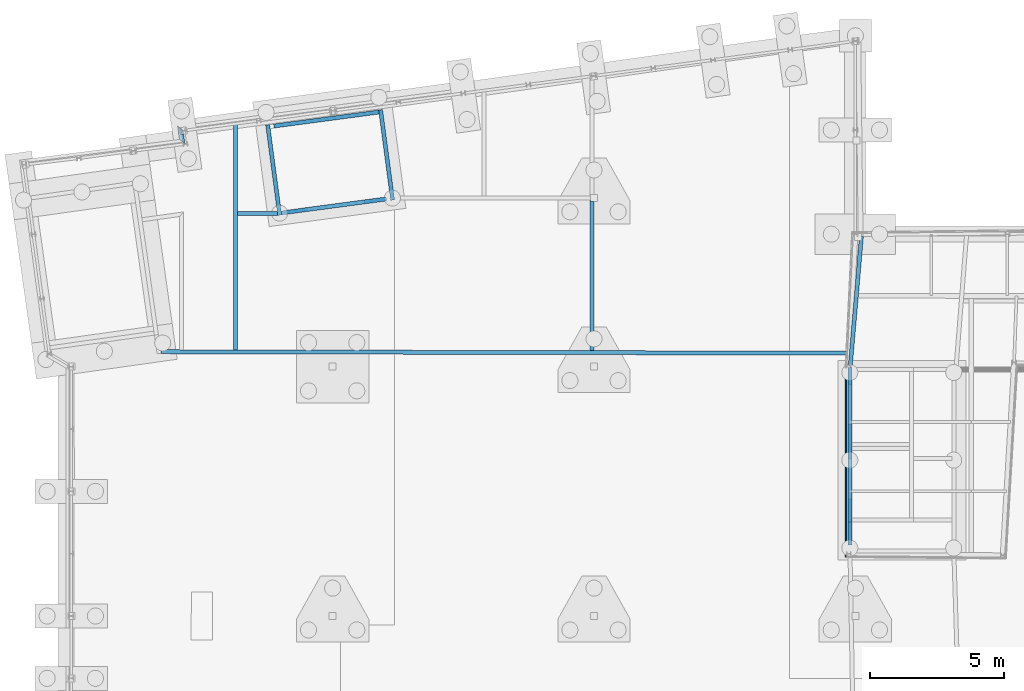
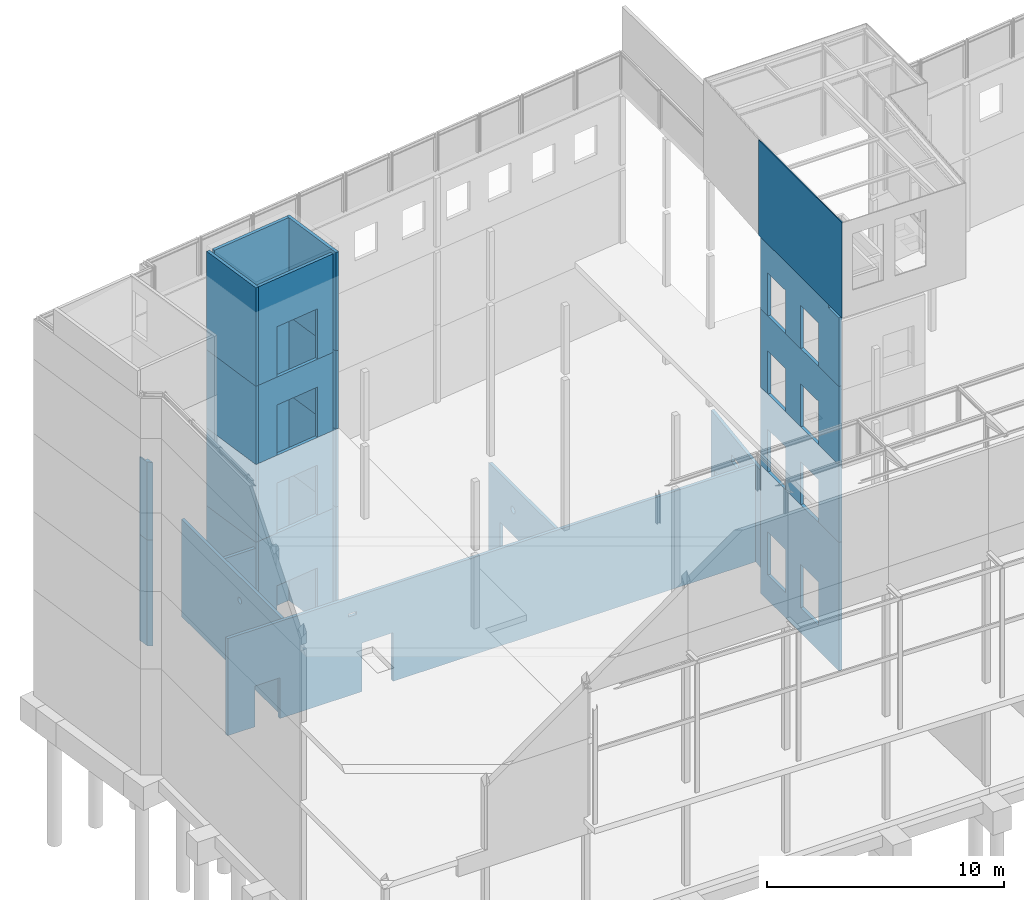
# One storey, part 71 of 82: 28 walls.
"""IFC2X3 building model written with IfcOpenShell, lengths in millimetres."""

from ifc_helpers import new_model, si_unit, frame, frame_2d, origin_with_axes, place, context, subcontext, project, spatial, polyline, rectangle, circle, outline, extrude, boolean, clip, halfspace, material, layer, layer_set, layer_usage, type_object, element, save


model = new_model("IFC2X3")

# Units and contexts
model_context = context("Model", 3, precision=1e-05, world=origin_with_axes())
body_context = subcontext(model_context, "Body", "Model", "MODEL_VIEW")
ifc_project = project(units=[si_unit("LENGTHUNIT", "METRE", prefix="MILLI"), si_unit("AREAUNIT", "SQUARE_METRE"), si_unit("VOLUMEUNIT", "CUBIC_METRE"), si_unit("MASSUNIT", "GRAM", prefix="KILO"), si_unit("TIMEUNIT", "SECOND"), si_unit("PLANEANGLEUNIT", "RADIAN"), si_unit("SOLIDANGLEUNIT", "STERADIAN"), si_unit("THERMODYNAMICTEMPERATUREUNIT", "DEGREE_CELSIUS"), si_unit("LUMINOUSINTENSITYUNIT", "LUMEN")], contexts=[model_context])

# Site, building, storey
site_placement = place(None, origin_with_axes())
site = spatial("IfcSite", under=ifc_project, at=site_placement, Name="Undefined", CompositionType="ELEMENT")
building_placement = place(site_placement, origin_with_axes())
building = spatial("IfcBuilding", under=site, at=building_placement, Name="Undefined", CompositionType="ELEMENT")
storey_placement = place(building_placement, origin_with_axes())
storey = spatial("IfcBuildingStorey", under=building, at=storey_placement, Name="Undefined", CompositionType="ELEMENT", Elevation=0.0)

# Walls
ifc_material_1 = material(Name="CONCRETE/C25/30")
ifc_layer_1 = layer(ifc_material_1, 150.0)
ifc_layer_set_1 = layer_set([ifc_layer_1], Name="Wall: Insitu CONCRETE/C25/30")
ifc_layer_usage_1 = layer_usage(ifc_layer_set_1, "AXIS2", "POSITIVE", -75.0)
wall_type_1 = type_object("IfcWallType", Name="4025*150", PredefinedType="NOTDEFINED")
wall_1_placement = place(storey_placement, frame((29048.7636301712, 18565.0686519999, 9305.0), z_axis=(0.0, 0.0, 1.0), x_axis=(-2.77555756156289e-17, -1.0, 0.0)))
element("IfcWallStandardCase", 1, at=wall_1_placement, inside=storey, type_object=wall_type_1, material=ifc_layer_usage_1, Name="VOILE_15CM", ObjectType="4025*150", context=body_context, shape_type="CSG", body=[
    boolean("DIFFERENCE", boolean("DIFFERENCE", extrude(rectangle(XDim=6620.14607964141, YDim=150.0, at=frame_2d((0.0, 3310.07303981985), x_axis=(0.0, -1.0))), frame((0.0, 0.0, 0.0), z_axis=(0.0, 0.0, 1.0), x_axis=(-2.77555756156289e-17, -1.0, 0.0)), (0.0, 0.0, 1.0), 4025.0), extrude(outline(polyline([(5.17284206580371e-08, 4.49290382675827e-10), (2220.0, -4.22005541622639e-10), (2220.0, 1499.99999999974), (0.0, 1499.99999999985), (5.17284206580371e-08, 4.49290382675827e-10)])), frame((3395.65940739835, 84.9999999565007, 2220.0), z_axis=(-2.77555756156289e-17, -1.0, 0.0), x_axis=(0.0, -6.50000002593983e-08, -0.999999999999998)), (0.0, 0.0, 1.0), 170.0)), extrude(outline(polyline([(5.17284206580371e-08, 4.49290382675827e-10), (2220.0, -4.22005541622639e-10), (2220.0, 1499.99999999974), (0.0, 1499.99999999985), (5.17284206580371e-08, 4.49290382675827e-10)])), frame((627.156925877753, 84.999999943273, 2220.0), z_axis=(-2.77555756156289e-17, -1.0, 0.0), x_axis=(0.0, -6.50000002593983e-08, -0.999999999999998)), (0.0, 0.0, 1.0), 170.0)),
])
ifc_layer_usage_2 = layer_usage(ifc_layer_set_1, "AXIS2", "POSITIVE", -75.0)
wall_2_placement = place(storey_placement, frame((11987.8709465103, 24813.5863782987, 9305.00006216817), z_axis=(0.0, 0.0, 1.0), x_axis=(-0.132256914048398, 0.991215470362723, 0.0)))
element("IfcWallStandardCase", 2, at=wall_2_placement, inside=storey, type_object=wall_type_1, material=ifc_layer_usage_2, Name="VOILE_15CM", ObjectType="4025*150", context=body_context, shape_type="SweptSolid", body=[
    extrude(rectangle(XDim=3399.99999999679, YDim=150.0, at=frame_2d((0.0, 1700.00000000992), x_axis=(0.0, -1.0))), frame((0.0, 0.0, 0.0), z_axis=(0.0, 0.0, 1.0), x_axis=(-2.77555756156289e-17, -1.0, 0.0)), (0.0, 0.0, 1.0), 4025.0),
])
ifc_layer_usage_3 = layer_usage(ifc_layer_set_1, "AXIS2", "POSITIVE", -75.0)
wall_3_placement = place(storey_placement, frame((11622.4599103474, 28119.2973117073, 9305.00006216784), z_axis=(0.0, 0.0, 1.0), x_axis=(-0.99121555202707, -0.132256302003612, 0.0)))
element("IfcWallStandardCase", 3, at=wall_3_placement, inside=storey, type_object=wall_type_1, material=ifc_layer_usage_3, Name="VOILE_15CM", ObjectType="4025*150", context=body_context, shape_type="SweptSolid", body=[
    extrude(rectangle(XDim=4099.9999983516, YDim=150.0, at=frame_2d((0.0, 2049.99999917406), x_axis=(0.0, -1.0))), frame((0.0, 0.0, 0.0), z_axis=(0.0, 0.0, 1.0), x_axis=(-2.77555756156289e-17, -1.0, 0.0)), (0.0, 0.0, 1.0), 4025.0),
])
ifc_layer_usage_4 = layer_usage(ifc_layer_set_1, "AXIS2", "POSITIVE", -75.0)
wall_4_placement = place(storey_placement, frame((7325.53342494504, 27621.6299739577, 9305.00006216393), z_axis=(0.0, 0.0, 1.0), x_axis=(0.132256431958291, -0.991215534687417, 0.0)))
element("IfcWallStandardCase", 4, at=wall_4_placement, inside=storey, type_object=wall_type_1, material=ifc_layer_usage_4, Name="VOILE_15CM", ObjectType="4025*150", context=body_context, shape_type="SweptSolid", body=[
    extrude(rectangle(XDim=3399.99999999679, YDim=150.0, at=frame_2d((0.0, 1700.00000000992), x_axis=(0.0, -1.0))), frame((0.0, 0.0, 0.0), z_axis=(0.0, 0.0, 1.0), x_axis=(-2.77555756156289e-17, -1.0, 0.0)), (0.0, 0.0, 1.0), 4025.0),
])
ifc_layer_usage_5 = layer_usage(ifc_layer_set_1, "AXIS2", "POSITIVE", -75.0)
wall_5_placement = place(storey_placement, frame((7690.94446103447, 24315.9190406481, 9305.00006216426), z_axis=(0.0, 0.0, 1.0), x_axis=(0.991215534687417, 0.132256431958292, 0.0)))
element("IfcWallStandardCase", 5, at=wall_5_placement, inside=storey, type_object=wall_type_1, material=ifc_layer_usage_5, Name="VOILE_15CM", ObjectType="4025*150", context=body_context, shape_type="CSG", body=[
    boolean("DIFFERENCE", extrude(rectangle(XDim=4099.9999983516, YDim=150.0, at=frame_2d((0.0, 2049.99999917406), x_axis=(0.0, -1.0))), frame((0.0, 0.0, 0.0), z_axis=(0.0, 0.0, 1.0), x_axis=(-2.77555756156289e-17, -1.0, 0.0)), (0.0, 0.0, 1.0), 4025.0), extrude(outline(polyline([(5.17284206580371e-08, 4.49290382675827e-10), (2592.0, -4.98403096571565e-10), (2592.0, 2159.99999999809), (3.63797880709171e-12, 2159.99999999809), (5.17284206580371e-08, 4.49290382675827e-10)])), frame((1119.93993696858, 85.0000000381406, 2592.00000000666), z_axis=(-2.77555756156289e-17, -1.0, 0.0), x_axis=(0.0, -6.50000002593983e-08, -0.999999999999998)), (0.0, 0.0, 1.0), 170.0)),
])
ifc_layer_usage_6 = layer_usage(ifc_layer_set_1, "AXIS2", "POSITIVE", -75.0)
wall_type_2 = type_object("IfcWallType", Name="4005*150", PredefinedType="NOTDEFINED")
wall_6_placement = place(storey_placement, frame((29048.7636301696, 18565.0686519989, 5300.0), z_axis=(0.0, 0.0, 1.0), x_axis=(-2.77555756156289e-17, -1.0, 0.0)))
element("IfcWallStandardCase", 6, at=wall_6_placement, inside=storey, type_object=wall_type_2, material=ifc_layer_usage_6, Name="VOILE_15CM", ObjectType="4005*150", context=body_context, shape_type="CSG", body=[
    boolean("DIFFERENCE", boolean("DIFFERENCE", extrude(rectangle(XDim=6620.14607964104, YDim=150.0, at=frame_2d((0.0, 3310.07303981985), x_axis=(0.0, -1.0))), frame((0.0, 0.0, 0.0), z_axis=(0.0, 0.0, 1.0), x_axis=(-2.77555756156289e-17, -1.0, 0.0)), (0.0, 0.0, 1.0), 4005.0), extrude(outline(polyline([(5.17284206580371e-08, 4.49290382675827e-10), (2200.0, 1.09139364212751e-11), (2200.0, 1499.99999999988), (0.0, 1499.99999999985), (5.17284206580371e-08, 4.49290382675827e-10)])), frame((3395.65940723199, 84.9999999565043, 2200.0), z_axis=(-2.77555756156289e-17, -1.0, 0.0), x_axis=(0.0, -6.50000002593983e-08, -0.999999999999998)), (0.0, 0.0, 1.0), 170.0)), extrude(outline(polyline([(5.17284206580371e-08, 4.49290382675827e-10), (2200.0, 1.09139364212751e-11), (2200.0, 1499.99999999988), (0.0, 1499.99999999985), (5.17284206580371e-08, 4.49290382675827e-10)])), frame((627.156925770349, 84.9999999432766, 2200.0), z_axis=(-2.77555756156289e-17, -1.0, 0.0), x_axis=(0.0, -6.50000002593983e-08, -0.999999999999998)), (0.0, 0.0, 1.0), 170.0)),
])
ifc_layer_usage_7 = layer_usage(ifc_layer_set_1, "AXIS2", "POSITIVE", -75.0)
wall_7_placement = place(storey_placement, frame((11987.8709465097, 24813.5863782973, 5300.00006216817), z_axis=(0.0, 0.0, 1.0), x_axis=(-0.132256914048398, 0.991215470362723, 0.0)))
element("IfcWallStandardCase", 7, at=wall_7_placement, inside=storey, type_object=wall_type_2, material=ifc_layer_usage_7, Name="VOILE_15CM", ObjectType="4005*150", context=body_context, shape_type="SweptSolid", body=[
    extrude(rectangle(XDim=3399.9999999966, YDim=150.0, at=frame_2d((0.0, 1700.00000000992), x_axis=(0.0, -1.0))), frame((0.0, 0.0, 0.0), z_axis=(0.0, 0.0, 1.0), x_axis=(-2.77555756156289e-17, -1.0, 0.0)), (0.0, 0.0, 1.0), 4005.0),
])
ifc_layer_usage_8 = layer_usage(ifc_layer_set_1, "AXIS2", "POSITIVE", -75.0)
wall_8_placement = place(storey_placement, frame((11622.4599103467, 28119.2973117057, 5300.00006216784), z_axis=(0.0, 0.0, 1.0), x_axis=(-0.99121555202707, -0.132256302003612, 0.0)))
element("IfcWallStandardCase", 8, at=wall_8_placement, inside=storey, type_object=wall_type_2, material=ifc_layer_usage_8, Name="VOILE_15CM", ObjectType="4005*150", context=body_context, shape_type="SweptSolid", body=[
    extrude(rectangle(XDim=4099.99999835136, YDim=150.0, at=frame_2d((0.0, 2049.99999917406), x_axis=(0.0, -1.0))), frame((0.0, 0.0, 0.0), z_axis=(0.0, 0.0, 1.0), x_axis=(-2.77555756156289e-17, -1.0, 0.0)), (0.0, 0.0, 1.0), 4005.0),
])
ifc_layer_usage_9 = layer_usage(ifc_layer_set_1, "AXIS2", "POSITIVE", -75.0)
wall_9_placement = place(storey_placement, frame((7325.53342494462, 27621.6299739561, 5300.00006216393), z_axis=(0.0, 0.0, 1.0), x_axis=(0.132256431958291, -0.991215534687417, 0.0)))
element("IfcWallStandardCase", 9, at=wall_9_placement, inside=storey, type_object=wall_type_2, material=ifc_layer_usage_9, Name="VOILE_15CM", ObjectType="4005*150", context=body_context, shape_type="SweptSolid", body=[
    extrude(rectangle(XDim=3399.9999999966, YDim=150.0, at=frame_2d((0.0, 1700.00000000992), x_axis=(0.0, -1.0))), frame((0.0, 0.0, 0.0), z_axis=(0.0, 0.0, 1.0), x_axis=(-2.77555756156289e-17, -1.0, 0.0)), (0.0, 0.0, 1.0), 4005.0),
])
ifc_layer_usage_10 = layer_usage(ifc_layer_set_1, "AXIS2", "POSITIVE", -75.0)
wall_10_placement = place(storey_placement, frame((7690.94446103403, 24315.9190406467, 5300.00006216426), z_axis=(0.0, 0.0, 1.0), x_axis=(0.991215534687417, 0.132256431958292, 0.0)))
element("IfcWallStandardCase", 10, at=wall_10_placement, inside=storey, type_object=wall_type_2, material=ifc_layer_usage_10, Name="VOILE_15CM", ObjectType="4005*150", context=body_context, shape_type="CSG", body=[
    boolean("DIFFERENCE", extrude(rectangle(XDim=4099.99999835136, YDim=150.0, at=frame_2d((0.0, 2049.99999917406), x_axis=(0.0, -1.0))), frame((0.0, 0.0, 0.0), z_axis=(0.0, 0.0, 1.0), x_axis=(-2.77555756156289e-17, -1.0, 0.0)), (0.0, 0.0, 1.0), 4005.0), extrude(outline(polyline([(5.17284206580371e-08, 4.49290382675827e-10), (2580.0, -3.23780113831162e-10), (2580.0, 2159.99999999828), (3.63797880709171e-12, 2159.99999999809), (5.17284206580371e-08, 4.49290382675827e-10)])), frame((1119.93993696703, 85.0000000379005, 2580.00000000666), z_axis=(-2.77555756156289e-17, -1.0, 0.0), x_axis=(0.0, -6.50000002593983e-08, -0.999999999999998)), (0.0, 0.0, 1.0), 170.0)),
])
ifc_material_2 = material(Name="STEEL/Steel_Undefined")
wall_type_3 = type_object("IfcWallType", Name="4900*50", PredefinedType="NOTDEFINED")
wall_11_placement = place(storey_placement, frame((28898.7637729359, 18564.9191475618, 17160.0003814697), z_axis=(0.0, 0.0, 1.0), x_axis=(-2.16299999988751e-06, -0.999999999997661, 0.0)))
element("IfcWall", 11, at=wall_11_placement, inside=storey, type_object=wall_type_3, material=ifc_material_2, Name="HABILLAGE", ObjectType="4900*50", context=body_context, shape_type="Clipping", body=[
    clip(clip(extrude(rectangle(XDim=7158.24198893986, YDim=50.0, at=frame_2d((0.0, 3523.91337771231), x_axis=(0.0, -1.0))), frame((0.0, 0.0, 0.0), z_axis=(0.0, 0.0, 1.0), x_axis=(-2.77555756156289e-17, -1.0, 0.0)), (0.0, 0.0, 1.0), 4900.0), halfspace(frame((7071.98203029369, -25.0000000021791, 2450.0), z_axis=(0.710467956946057, 0.703729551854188, 0.0), x_axis=(0.0, 0.0, 1.0)), False)), halfspace(frame((5.10229074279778e-05, -25.0000000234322, 2469.99961851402), z_axis=(0.99970482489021, -0.0242953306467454, 0.0), x_axis=(0.0, 0.0, 1.0)), True)),
])
ifc_layer_usage_11 = layer_usage(ifc_layer_set_1, "AXIS2", "POSITIVE", -75.0)
wall_type_4 = type_object("IfcWallType", Name="5070*150", PredefinedType="NOTDEFINED")
wall_12_placement = place(storey_placement, frame((11622.4599103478, 28119.2973117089, 13330.0000621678), z_axis=(0.0, 0.0, 1.0), x_axis=(-0.99121555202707, -0.132256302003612, 0.0)))
element("IfcWallStandardCase", 12, at=wall_12_placement, inside=storey, type_object=wall_type_4, material=ifc_layer_usage_11, Name="VOILE_15CM", ObjectType="5070*150", context=body_context, shape_type="SweptSolid", body=[
    extrude(rectangle(XDim=4099.99999834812, YDim=150.0, at=frame_2d((0.0, 2049.99999917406), x_axis=(0.0, -1.0))), frame((0.0, 0.0, 0.0), z_axis=(0.0, 0.0, 1.0), x_axis=(-2.77555756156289e-17, -1.0, 0.0)), (0.0, 0.0, 1.0), 5070.0),
])
ifc_layer_usage_12 = layer_usage(ifc_layer_set_1, "AXIS2", "POSITIVE", -75.0)
wall_13_placement = place(storey_placement, frame((11987.8709465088, 24813.5863783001, 13330.0000621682), z_axis=(0.0, 0.0, 1.0), x_axis=(-0.132256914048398, 0.991215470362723, 0.0)))
element("IfcWallStandardCase", 13, at=wall_13_placement, inside=storey, type_object=wall_type_4, material=ifc_layer_usage_12, Name="VOILE_15CM", ObjectType="5070*150", context=body_context, shape_type="SweptSolid", body=[
    extrude(rectangle(XDim=3400.00000001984, YDim=150.0, at=frame_2d((0.0, 1700.00000000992), x_axis=(0.0, -1.0))), frame((0.0, 0.0, 0.0), z_axis=(0.0, 0.0, 1.0), x_axis=(-2.77555756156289e-17, -1.0, 0.0)), (0.0, 0.0, 1.0), 5070.0),
])
ifc_layer_usage_13 = layer_usage(ifc_layer_set_1, "AXIS2", "POSITIVE", -75.0)
wall_14_placement = place(storey_placement, frame((7325.53342494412, 27621.6299739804, 13330.0000621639), z_axis=(0.0, 0.0, 1.0), x_axis=(0.132256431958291, -0.991215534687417, 0.0)))
element("IfcWallStandardCase", 14, at=wall_14_placement, inside=storey, type_object=wall_type_4, material=ifc_layer_usage_13, Name="VOILE_15CM", ObjectType="5070*150", context=body_context, shape_type="SweptSolid", body=[
    extrude(rectangle(XDim=3400.00000001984, YDim=150.0, at=frame_2d((0.0, 1700.00000000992), x_axis=(0.0, -1.0))), frame((0.0, 0.0, 0.0), z_axis=(0.0, 0.0, 1.0), x_axis=(-2.77555756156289e-17, -1.0, 0.0)), (0.0, 0.0, 1.0), 5070.0),
])
ifc_layer_usage_14 = layer_usage(ifc_layer_set_1, "AXIS2", "POSITIVE", -75.0)
wall_15_placement = place(storey_placement, frame((7690.94446103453, 24315.9190406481, 13330.0000621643), z_axis=(0.0, 0.0, 1.0), x_axis=(0.991215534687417, 0.132256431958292, 0.0)))
element("IfcWallStandardCase", 15, at=wall_15_placement, inside=storey, type_object=wall_type_4, material=ifc_layer_usage_14, Name="VOILE_15CM", ObjectType="5070*150", context=body_context, shape_type="CSG", body=[
    boolean("DIFFERENCE", extrude(rectangle(XDim=4099.99999834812, YDim=150.0, at=frame_2d((0.0, 2049.99999917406), x_axis=(0.0, -1.0))), frame((0.0, 0.0, 0.0), z_axis=(0.0, 0.0, 1.0), x_axis=(-2.77555756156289e-17, -1.0, 0.0)), (0.0, 0.0, 1.0), 5070.0), extrude(outline(polyline([(5.17284206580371e-08, 4.49290382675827e-10), (2592.0, -4.98403096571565e-10), (2592.0, 2159.99999999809), (3.63797880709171e-12, 2159.99999999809), (5.17284206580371e-08, 4.49290382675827e-10)])), frame((1119.93993696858, 85.0000000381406, 2592.00000000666), z_axis=(-2.77555756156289e-17, -1.0, 0.0), x_axis=(0.0, -6.50000002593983e-08, -0.999999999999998)), (0.0, 0.0, 1.0), 170.0)),
])
ifc_layer_usage_15 = layer_usage(ifc_layer_set_1, "AXIS2", "POSITIVE", -75.0)
wall_type_5 = type_object("IfcWallType", Name="4700*150", PredefinedType="NOTDEFINED")
wall_16_placement = place(storey_placement, frame((29048.7636301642, 18565.0686519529, 13330.0), z_axis=(0.0, 0.0, 1.0), x_axis=(-2.77555756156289e-17, -1.0, 0.0)))
element("IfcWallStandardCase", 16, at=wall_16_placement, inside=storey, type_object=wall_type_5, material=ifc_layer_usage_15, Name="VOILE_15CM", ObjectType="4700*150", context=body_context, shape_type="CSG", body=[
    boolean("DIFFERENCE", boolean("DIFFERENCE", boolean("DIFFERENCE", extrude(rectangle(XDim=6620.14607963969, YDim=150.0, at=frame_2d((0.0, 3310.07303981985), x_axis=(0.0, -1.0))), frame((0.0, 0.0, 0.0), z_axis=(0.0, 0.0, 1.0), x_axis=(-2.77555756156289e-17, -1.0, 0.0)), (0.0, 0.0, 1.0), 4700.0), extrude(outline(polyline([(5.17284206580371e-08, 4.49290382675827e-10), (1170.0, -1.20053300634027e-10), (1170.0, 1020.14605712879), (-7.27595761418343e-12, 1020.14605712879), (5.17284206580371e-08, 4.49290382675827e-10)])), frame((5749.99996016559, 77.5000000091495, 4699.99999999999), z_axis=(-2.77555756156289e-17, -1.0, 0.0), x_axis=(0.0, -6.50000002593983e-08, -0.999999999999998)), (0.0, 0.0, 1.0), 155.0)), extrude(outline(polyline([(5.17284206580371e-08, 4.49290382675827e-10), (2220.0, -4.22005541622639e-10), (2220.0, 1499.99999999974), (0.0, 1499.99999999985), (5.17284206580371e-08, 4.49290382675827e-10)])), frame((3395.65940739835, 84.9999999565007, 2220.0), z_axis=(-2.77555756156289e-17, -1.0, 0.0), x_axis=(0.0, -6.50000002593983e-08, -0.999999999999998)), (0.0, 0.0, 1.0), 170.0)), extrude(outline(polyline([(5.17284206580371e-08, 4.49290382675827e-10), (2220.0, -4.22005541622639e-10), (2220.0, 1499.99999999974), (0.0, 1499.99999999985), (5.17284206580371e-08, 4.49290382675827e-10)])), frame((627.156925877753, 84.999999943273, 2220.0), z_axis=(-2.77555756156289e-17, -1.0, 0.0), x_axis=(0.0, -6.50000002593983e-08, -0.999999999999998)), (0.0, 0.0, 1.0), 170.0)),
])
wall_type_6 = type_object("IfcWallType", Name="4005*180", PredefinedType="NOTDEFINED")
wall_17_placement = place(storey_placement, frame((4147.35883098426, 26910.7352589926, 5000.0), z_axis=(0.0, 0.0, 1.0), x_axis=(-0.132256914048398, 0.991215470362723, 0.0)))
element("IfcWall", 17, at=wall_17_placement, inside=storey, type_object=wall_type_6, material=ifc_material_1, Name="PANNEAU_FACADE", ObjectType="4005*180", context=body_context, shape_type="CSG", body=[
    boolean("DIFFERENCE", boolean("DIFFERENCE", boolean("DIFFERENCE", extrude(rectangle(XDim=1293.65543501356, YDim=180.0, at=frame_2d((0.0, 340.200514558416), x_axis=(0.0, -1.0))), frame((0.0, 0.0, 0.0), z_axis=(0.0, 0.0, 1.0), x_axis=(-2.77555756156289e-17, -1.0, 0.0)), (0.0, 0.0, 1.0), 4005.0), extrude(rectangle(XDim=265.0, YDim=265.0, at=frame_2d((5.17284206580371e-08, 4.49290382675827e-10), x_axis=(1.0, 0.0))), frame((485.073421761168, -104.999523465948, 4004.9999999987), z_axis=(0.0, -6.50000002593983e-08, -0.999999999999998), x_axis=(0.999999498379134, -0.00100161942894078, 0.0)), (0.0, 0.0, 1.0), 3705.0)), halfspace(frame((680.134124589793, 89.9999993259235, 2002.5), z_axis=(-0.706752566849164, 0.70746081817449, 0.0), x_axis=(0.0, 0.0, 1.0)), True)), halfspace(frame((180.714311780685, 89.9999998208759, 2002.5), z_axis=(-0.705704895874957, 0.708505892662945, 0.0), x_axis=(0.0, 0.0, 1.0)), False)),
])
ifc_material_3 = material(Name="CONCRETE/BRIQUE")
wall_type_7 = type_object("IfcWallType", Name="5000*150", PredefinedType="NOTDEFINED")
wall_18_placement = place(storey_placement, frame((29032.716726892, 19104.0721172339, 0.0), z_axis=(0.0, 0.0, 1.0), x_axis=(-0.999997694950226, 0.00214711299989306, 0.0)))
element("IfcWall", 18, at=wall_18_placement, inside=storey, type_object=wall_type_7, material=ifc_material_3, Name="MACONNERIE_15CM", ObjectType="5000*150", context=body_context, shape_type="CSG", body=[
    boolean("DIFFERENCE", boolean("DIFFERENCE", boolean("DIFFERENCE", boolean("DIFFERENCE", boolean("DIFFERENCE", extrude(rectangle(XDim=25761.8732360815, YDim=150.0, at=frame_2d((0.0, 12848.8521234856), x_axis=(0.0, -1.0))), frame((0.0, 0.0, 0.0), z_axis=(0.0, 0.0, 1.0), x_axis=(-2.77555756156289e-17, -1.0, 0.0)), (0.0, 0.0, 1.0), 5000.0), extrude(outline(polyline([(5.17284206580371e-08, 4.49290382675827e-10), (2500.0, -4.18367562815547e-10), (2500.0, 1499.99999999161), (0.0, 1499.99999999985), (5.17284206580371e-08, 4.49290382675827e-10)])), frame((19150.1732547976, -85.0000000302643, 2500.0), z_axis=(0.0, 1.0, 0.0), x_axis=(0.0, -6.50000002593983e-08, -0.999999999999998)), (0.0, 0.0, 1.0), 170.0)), extrude(outline(polyline([(5.17284206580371e-08, 4.49290382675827e-10), (2100.0, 5.82076609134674e-11), (2100.0, 1200.00000000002), (0.0, 1199.99999998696), (5.17284206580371e-08, 4.49290382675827e-10)])), frame((24347.5881879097, -85.0000000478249, 2100.0), z_axis=(0.0, 1.0, 0.0), x_axis=(0.0, -6.50000002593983e-08, -0.999999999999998)), (0.0, 0.0, 1.0), 170.0)), extrude(rectangle(XDim=400.0, YDim=150.0, at=frame_2d((5.17284206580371e-08, 4.49290382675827e-10), x_axis=(1.0, 0.0))), frame((19621.9506438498, -85.0000000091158, 4139.99968719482), z_axis=(0.0, 1.0, 0.0), x_axis=(-1.0, 0.0, 0.0)), (0.0, 0.0, 1.0), 170.0)), halfspace(frame((25691.4316565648, -2.36141204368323e-08, 1500.0), z_axis=(-0.989715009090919, -0.143053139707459, 0.0), x_axis=(-0.143053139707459, 0.989715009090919, 0.0)), True)), halfspace(frame((6.27259041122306, 1.72694853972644e-08, 1500.0), z_axis=(0.996520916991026, -0.0833430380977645, 0.0), x_axis=(-0.0833430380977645, -0.996520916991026, 0.0)), True)),
])
wall_19_placement = place(storey_placement, frame((6122.05352902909, 19228.1033123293, 0.0), z_axis=(0.0, 0.0, 1.0), x_axis=(0.0, 1.0, 0.0)))
element("IfcWall", 19, at=wall_19_placement, inside=storey, type_object=wall_type_7, material=ifc_material_3, Name="MACONNERIE_15CM", ObjectType="5000*150", context=body_context, shape_type="CSG", body=[
    boolean("DIFFERENCE", boolean("DIFFERENCE", extrude(rectangle(XDim=8470.55047227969, YDim=150.0, at=frame_2d((0.0, 4235.43611008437), x_axis=(0.0, -1.0))), frame((0.0, 0.0, 0.0), z_axis=(0.0, 0.0, 1.0), x_axis=(-2.77555756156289e-17, -1.0, 0.0)), (0.0, 0.0, 1.0), 5000.0), extrude(circle(Radius=150.0, at=frame_2d((5.17284206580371e-08, 4.49290382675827e-10), x_axis=(1.0, 0.0))), frame((3516.8263523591, -85.0000000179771, 3800.00048828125), z_axis=(0.0, 1.0, 0.0), x_axis=(-1.0, 0.0, 0.0)), (0.0, 0.0, 1.0), 170.0)), halfspace(frame((8448.5094161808, 4.43596945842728e-08, 1500.0), z_axis=(-0.991347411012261, -0.131264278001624, 0.0), x_axis=(-0.131264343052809, 0.991347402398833, 0.0)), True)),
])
wall_20_placement = place(storey_placement, frame((6197.05360636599, 24316.5778742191, 0.0), z_axis=(0.0, 0.0, 1.0), x_axis=(1.0, 0.0, 0.0)))
element("IfcWall", 20, at=wall_20_placement, inside=storey, type_object=wall_type_7, material=ifc_material_3, Name="MACONNERIE_15CM", ObjectType="5000*150", context=body_context, shape_type="Clipping", body=[
    clip(extrude(rectangle(XDim=1515.8187120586, YDim=150.0, at=frame_2d((0.0, 757.909356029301), x_axis=(0.0, -1.0))), frame((0.0, 0.0, 0.0), z_axis=(0.0, 0.0, 1.0), x_axis=(-2.77555756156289e-17, -1.0, 0.0)), (0.0, 0.0, 1.0), 5000.0), halfspace(frame((1493.80294921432, 1.67565303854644e-08, 1500.0), z_axis=(-0.99121555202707, -0.132256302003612, 0.0), x_axis=(-0.132256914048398, 0.991215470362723, 0.0)), True)),
])
ifc_layer_2 = layer(ifc_material_3, 150.0)
ifc_layer_set_2 = layer_set([ifc_layer_2], Name="Wall: Insitu CONCRETE/BRIQUE")
ifc_layer_usage_16 = layer_usage(ifc_layer_set_2, "AXIS2", "POSITIVE", -75.0)
wall_21_placement = place(storey_placement, frame((19424.9999999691, 19199.5400799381, 0.0), z_axis=(0.0, 0.0, 1.0), x_axis=(0.0, 1.0, 0.0)))
solid = boolean("DIFFERENCE", boolean("DIFFERENCE", boolean("DIFFERENCE", boolean("DIFFERENCE", boolean("DIFFERENCE", extrude(rectangle(XDim=7317.46180809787, YDim=150.0, at=frame_2d((0.0, 3638.7710711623), x_axis=(0.0, -1.0))), frame((5700.37938541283, 74.9598300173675, 0.0), z_axis=(0.0, 0.0, 1.0), x_axis=(0.999999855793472, 0.000537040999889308, 0.0)), (0.0, 0.0, 1.0), 5000.0), extrude(outline(polyline([(5.17284206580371e-08, 4.49290382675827e-10), (14150.0, 3.21233528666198e-09), (14150.0, 1500.00000000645), (0.0, 1499.99999999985), (5.17284206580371e-08, 4.49290382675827e-10)])), frame((5464.520508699, 1674.17237425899, 2500.00000000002), z_axis=(0.999999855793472, 0.000537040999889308, 0.0), x_axis=(0.0, 0.0, 1.0)), (0.0, 0.0, 1.0), 170.0)), extrude(outline(polyline([(5.17284206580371e-08, 4.49290382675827e-10), (14150.0, 3.21233528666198e-09), (14150.0, 1500.00000000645), (0.0, 1499.99999999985), (5.17284206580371e-08, 4.49290382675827e-10)])), frame((5462.25607071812, 5890.68035298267, 2500.00000000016), z_axis=(0.999999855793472, 0.000537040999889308, 0.0), x_axis=(0.0, 0.0, 1.0)), (0.0, 0.0, 1.0), 170.0)), extrude(circle(Radius=100.0, at=frame_2d((5.17284206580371e-08, 4.49290382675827e-10), x_axis=(1.0, 0.0))), frame((5784.81006647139, 1135.0858150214, 3799.99953460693), z_axis=(-0.999999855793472, -0.000537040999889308, 0.0), x_axis=(0.000537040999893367, -0.999999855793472, 0.0)), (0.0, 0.0, 1.0), 170.0)), extrude(circle(Radius=100.0, at=frame_2d((5.17284206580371e-08, 4.49290382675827e-10), x_axis=(1.0, 0.0))), frame((5782.66190278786, 5135.08466139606, 3799.99953460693), z_axis=(-0.999999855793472, -0.000537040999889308, 0.0), x_axis=(0.000537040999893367, -0.999999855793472, 0.0)), (0.0, 0.0, 1.0), 170.0)), halfspace(frame((5696.46032766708, 7372.46075288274, 1500.0), z_axis=(0.132256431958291, -0.991215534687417, 0.0), x_axis=(-0.99121555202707, -0.132256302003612, 0.0)), True))
element("IfcWallStandardCase", 21, at=wall_21_placement, inside=storey, type_object=wall_type_7, material=ifc_layer_usage_16, Name="MACONNERIE_15CM", ObjectType="5000*150", context=body_context, shape_type="CSG", body=[
    boolean("DIFFERENCE", boolean("DIFFERENCE", boolean("DIFFERENCE", boolean("DIFFERENCE", extrude(rectangle(XDim=5700.29888880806, YDim=150.0, at=frame_2d((0.0, 2850.31055559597), x_axis=(0.0, -1.0))), frame((0.0, 0.0, 0.0), z_axis=(0.0, 0.0, 1.0), x_axis=(-2.77555756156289e-17, -1.0, 0.0)), (0.0, 0.0, 1.0), 5000.0), extrude(circle(Radius=175.0, at=frame_2d((5.17284206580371e-08, 4.49290382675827e-10), x_axis=(1.0, 0.0))), frame((3545.38958466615, -85.0, 3800.00048828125), z_axis=(0.0, 1.0, 0.0), x_axis=(-1.0, 0.0, 0.0)), (0.0, 0.0, 1.0), 170.0)), solid), extrude(rectangle(XDim=260.0, YDim=260.0, at=frame_2d((5.17284206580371e-08, 4.49290382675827e-10), x_axis=(1.0, 0.0))), frame((5700.45903505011, -74.9999999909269, 16200.0), z_axis=(0.0, -6.50000002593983e-08, -0.999999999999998), x_axis=(0.0, 1.0, 0.0)), (0.0, 0.0, 1.0), 16650.0)), extrude(outline(polyline([(5.17284206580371e-08, 4.49290382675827e-10), (2500.0, -4.18367562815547e-10), (2500.0, 1499.99999999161), (0.0, 1499.99999999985), (5.17284206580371e-08, 4.49290382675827e-10)])), frame((4641.64916544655, -84.9999999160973, 2500.0), z_axis=(0.0, 1.0, 0.0), x_axis=(0.0, -6.50000002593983e-08, -0.999999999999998)), (0.0, 0.0, 1.0), 170.0)),
])
wall_22_placement = place(storey_placement, frame((29474.750393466, 23451.9385711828, 0.0), z_axis=(0.0, 0.0, 1.0), x_axis=(-0.0854824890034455, -0.996339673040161, 0.0)))
element("IfcWall", 22, at=wall_22_placement, inside=storey, type_object=wall_type_7, material=ifc_material_3, Name="MACONNERIE_15CM", ObjectType="5000*150", context=body_context, shape_type="CSG", body=[
    boolean("DIFFERENCE", boolean("DIFFERENCE", boolean("DIFFERENCE", boolean("DIFFERENCE", extrude(rectangle(XDim=4966.41847559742, YDim=150.0, at=frame_2d((0.0, 2451.83222706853), x_axis=(0.0, -1.0))), frame((0.0, 0.0, 0.0), z_axis=(0.0, 0.0, 1.0), x_axis=(-2.77555756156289e-17, -1.0, 0.0)), (0.0, 0.0, 1.0), 5000.0), extrude(rectangle(XDim=700.0, YDim=360.0, at=frame_2d((5.17284206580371e-08, 4.49290382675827e-10), x_axis=(1.0, 0.0))), frame((2401.61636250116, -85.0000000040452, 3800.0002975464), z_axis=(0.0, 1.0, 0.0), x_axis=(-1.0, 0.0, 0.0)), (0.0, 0.0, 1.0), 170.0)), extrude(outline(polyline([(5.17284206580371e-08, 4.49290382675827e-10), (2100.0, 5.82076609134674e-11), (2100.0, 1000.00000000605), (0.0, 1000.00000000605), (5.17284206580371e-08, 4.49290382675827e-10)])), frame((341.348584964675, 84.9999999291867, 2100.0), z_axis=(-2.77555756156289e-17, -1.0, 0.0), x_axis=(0.0, -6.50000002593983e-08, -0.999999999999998)), (0.0, 0.0, 1.0), 170.0)), halfspace(frame((4904.82313576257, -2.82707333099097e-08, 1500.0), z_axis=(-0.996339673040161, -0.0854824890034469, 0.0), x_axis=(-0.0854824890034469, 0.996339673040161, 0.0)), True)), halfspace(frame((-1.15868161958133, -3.59686964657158e-08, 1500.0), z_axis=(0.995295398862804, 0.0968868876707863, 0.0), x_axis=(0.0968868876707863, -0.995295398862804, 0.0)), True)),
])
ifc_layer_usage_17 = layer_usage(ifc_layer_set_1, "AXIS2", "POSITIVE", -75.0)
wall_type_8 = type_object("IfcWallType", Name="6600*150", PredefinedType="NOTDEFINED")
wall_23_placement = place(storey_placement, frame((11987.870946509, 24813.5863782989, -1299.99999999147), z_axis=(0.0, 0.0, 1.0), x_axis=(-0.132256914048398, 0.991215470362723, 0.0)))
element("IfcWallStandardCase", 23, at=wall_23_placement, inside=storey, type_object=wall_type_8, material=ifc_layer_usage_17, Name="VOILE_15CM", ObjectType="6600*150", context=body_context, shape_type="SweptSolid", body=[
    extrude(rectangle(XDim=3400.00000002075, YDim=150.0, at=frame_2d((0.0, 1700.00000000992), x_axis=(0.0, -1.0))), frame((0.0, 0.0, 0.0), z_axis=(0.0, 0.0, 1.0), x_axis=(-2.77555756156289e-17, -1.0, 0.0)), (0.0, 0.0, 1.0), 6600.0),
])
ifc_layer_usage_18 = layer_usage(ifc_layer_set_1, "AXIS2", "POSITIVE", -75.0)
wall_24_placement = place(storey_placement, frame((11622.4599103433, 28119.2973117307, -1299.99999999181), z_axis=(0.0, 0.0, 1.0), x_axis=(-0.99121555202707, -0.132256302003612, 0.0)))
element("IfcWallStandardCase", 24, at=wall_24_placement, inside=storey, type_object=wall_type_8, material=ifc_layer_usage_18, Name="VOILE_15CM", ObjectType="6600*150", context=body_context, shape_type="SweptSolid", body=[
    extrude(rectangle(XDim=4099.99999834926, YDim=150.0, at=frame_2d((0.0, 2049.99999917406), x_axis=(0.0, -1.0))), frame((0.0, 0.0, 0.0), z_axis=(0.0, 0.0, 1.0), x_axis=(-2.77555756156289e-17, -1.0, 0.0)), (0.0, 0.0, 1.0), 6600.0),
])
ifc_layer_usage_19 = layer_usage(ifc_layer_set_1, "AXIS2", "POSITIVE", -75.0)
wall_25_placement = place(storey_placement, frame((7325.53342494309, 27621.6299739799, -1299.99999999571), z_axis=(0.0, 0.0, 1.0), x_axis=(0.132256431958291, -0.991215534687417, 0.0)))
element("IfcWallStandardCase", 25, at=wall_25_placement, inside=storey, type_object=wall_type_8, material=ifc_layer_usage_19, Name="VOILE_15CM", ObjectType="6600*150", context=body_context, shape_type="SweptSolid", body=[
    extrude(rectangle(XDim=3400.00000002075, YDim=150.0, at=frame_2d((0.0, 1700.00000000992), x_axis=(0.0, -1.0))), frame((0.0, 0.0, 0.0), z_axis=(0.0, 0.0, 1.0), x_axis=(-2.77555756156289e-17, -1.0, 0.0)), (0.0, 0.0, 1.0), 6600.0),
])
ifc_layer_usage_20 = layer_usage(ifc_layer_set_1, "AXIS2", "POSITIVE", -75.0)
wall_26_placement = place(storey_placement, frame((7690.94446103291, 24315.9190406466, -1299.99999999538), z_axis=(0.0, 0.0, 1.0), x_axis=(0.991215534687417, 0.132256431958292, 0.0)))
element("IfcWallStandardCase", 26, at=wall_26_placement, inside=storey, type_object=wall_type_8, material=ifc_layer_usage_20, Name="VOILE_15CM", ObjectType="6600*150", context=body_context, shape_type="CSG", body=[
    boolean("DIFFERENCE", extrude(rectangle(XDim=4099.99999834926, YDim=150.0, at=frame_2d((0.0, 2049.99999917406), x_axis=(0.0, -1.0))), frame((0.0, 0.0, 0.0), z_axis=(0.0, 0.0, 1.0), x_axis=(-2.77555756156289e-17, -1.0, 0.0)), (0.0, 0.0, 1.0), 6600.0), extrude(outline(polyline([(5.17284206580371e-08, 4.49290382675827e-10), (2470.0, -3.23780113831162e-10), (2470.0, 2159.99999999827), (3.63797880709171e-12, 2159.99999999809), (5.17284206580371e-08, 4.49290382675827e-10)])), frame((1119.93993696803, 85.0000003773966, 3890.00000000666), z_axis=(-2.77555756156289e-17, -1.0, 0.0), x_axis=(0.0, -6.50000002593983e-08, -0.999999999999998)), (0.0, 0.0, 1.0), 170.0)),
])
ifc_layer_usage_21 = layer_usage(ifc_layer_set_1, "AXIS2", "POSITIVE", -75.0)
wall_27_placement = place(storey_placement, frame((29048.7636301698, 18565.0686519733, -1300.0), z_axis=(0.0, 0.0, 1.0), x_axis=(-2.77555756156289e-17, -1.0, 0.0)))
element("IfcWallStandardCase", 27, at=wall_27_placement, inside=storey, type_object=wall_type_8, material=ifc_layer_usage_21, Name="VOILE_15CM", ObjectType="6600*150", context=body_context, shape_type="CSG", body=[
    boolean("DIFFERENCE", boolean("DIFFERENCE", extrude(rectangle(XDim=6620.14607966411, YDim=150.0, at=frame_2d((0.0, 3310.07303981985), x_axis=(0.0, -1.0))), frame((0.0, 0.0, 0.0), z_axis=(0.0, 0.0, 1.0), x_axis=(-2.77555756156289e-17, -1.0, 0.0)), (0.0, 0.0, 1.0), 6600.0), extrude(outline(polyline([(5.17284206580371e-08, 4.49290382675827e-10), (2220.0, -4.22005541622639e-10), (2220.0, 1499.99999999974), (0.0, 1499.99999999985), (5.17284206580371e-08, 4.49290382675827e-10)])), frame((3395.65940746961, 84.9999999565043, 3520.0), z_axis=(-2.77555756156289e-17, -1.0, 0.0), x_axis=(0.0, -6.50000002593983e-08, -0.999999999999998)), (0.0, 0.0, 1.0), 170.0)), extrude(outline(polyline([(5.17284206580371e-08, 4.49290382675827e-10), (2220.0, -4.22005541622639e-10), (2220.0, 1499.99999999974), (0.0, 1499.99999999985), (5.17284206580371e-08, 4.49290382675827e-10)])), frame((627.156925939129, 84.999999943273, 3520.0), z_axis=(-2.77555756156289e-17, -1.0, 0.0), x_axis=(0.0, -6.50000002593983e-08, -0.999999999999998)), (0.0, 0.0, 1.0), 170.0)),
])
wall_type_9 = type_object("IfcWallType", Name="5450*180", PredefinedType="NOTDEFINED")
wall_28_placement = place(storey_placement, frame((4147.35883098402, 26910.7352589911, -450.0), z_axis=(0.0, 0.0, 1.0), x_axis=(-0.132256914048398, 0.991215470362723, 0.0)))
element("IfcWall", 28, at=wall_28_placement, inside=storey, type_object=wall_type_9, material=ifc_material_1, Name="PANNEAU_FACADE", ObjectType="5450*180", context=body_context, shape_type="CSG", body=[
    boolean("DIFFERENCE", boolean("DIFFERENCE", boolean("DIFFERENCE", extrude(rectangle(XDim=1293.65543501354, YDim=180.0, at=frame_2d((0.0, 340.200514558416), x_axis=(0.0, -1.0))), frame((0.0, 0.0, 0.0), z_axis=(0.0, 0.0, 1.0), x_axis=(-2.77555756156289e-17, -1.0, 0.0)), (0.0, 0.0, 1.0), 5450.0), extrude(rectangle(XDim=265.0, YDim=265.0, at=frame_2d((5.17284206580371e-08, 4.49290382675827e-10), x_axis=(1.0, 0.0))), frame((485.073421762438, -104.999523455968, 16650.0), z_axis=(0.0, -6.50000002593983e-08, -0.999999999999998), x_axis=(0.999999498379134, -0.00100161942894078, 0.0)), (0.0, 0.0, 1.0), 16650.0)), halfspace(frame((680.13412458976, 89.9999993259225, 2725.0), z_axis=(-0.706752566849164, 0.70746081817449, 0.0), x_axis=(0.0, 0.0, 1.0)), True)), halfspace(frame((180.714311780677, 89.9999998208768, 2725.0), z_axis=(-0.705704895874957, 0.708505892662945, 0.0), x_axis=(0.0, 0.0, 1.0)), False)),
])

save(model, "model.ifc")
